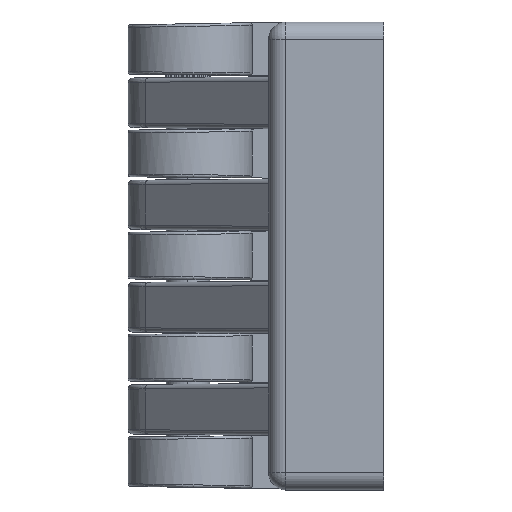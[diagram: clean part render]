
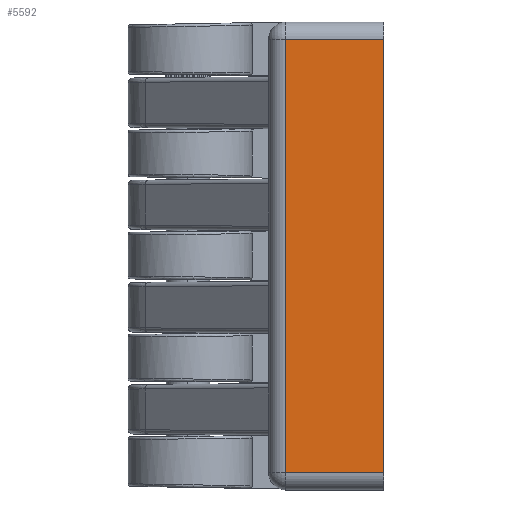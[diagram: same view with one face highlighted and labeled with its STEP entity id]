
A CAD part, left-side view. The second image highlights one B-rep face of the part: STEP entity #5592.
In plain terms, the highlighted planar face has unit normal (-1, 0, 0).
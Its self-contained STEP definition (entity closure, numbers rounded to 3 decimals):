
#245 = CARTESIAN_POINT ( 'NONE',  ( -22.25, -11.3, 24.975 ) ) ;
#463 = VERTEX_POINT ( 'NONE', #996 ) ;
#937 = CARTESIAN_POINT ( 'NONE',  ( -22.25, -22.6, -24.975 ) ) ;
#996 = CARTESIAN_POINT ( 'NONE',  ( -22.25, -11.3, 24.975 ) ) ;
#1134 = DIRECTION ( 'NONE',  ( 0., 0., -1. ) ) ;
#1444 = VECTOR ( 'NONE', #1134, 1000. ) ;
#1939 = VERTEX_POINT ( 'NONE', #11486 ) ;
#2850 = VECTOR ( 'NONE', #10533, 1000. ) ;
#3102 = DIRECTION ( 'NONE',  ( 0., 0., -1. ) ) ;
#3810 = VERTEX_POINT ( 'NONE', #12408 ) ;
#3829 = DIRECTION ( 'NONE',  ( 0., -1., 0. ) ) ;
#3848 = CARTESIAN_POINT ( 'NONE',  ( -22.25, -22.6, 26.975 ) ) ;
#5194 = VERTEX_POINT ( 'NONE', #13319 ) ;
#5592 = ADVANCED_FACE ( 'NONE', ( #14114 ), #10954, .F. ) ;
#6759 = EDGE_CURVE ( 'NONE', #5194, #463, #17525, .T. ) ;
#7130 = ORIENTED_EDGE ( 'NONE', *, *, #12102, .T. ) ;
#10533 = DIRECTION ( 'NONE',  ( 0., 1., 0. ) ) ;
#10954 = PLANE ( 'NONE',  #17490 ) ;
#11112 = EDGE_LOOP ( 'NONE', ( #11310, #7130, #16391, #16906 ) ) ;
#11310 = ORIENTED_EDGE ( 'NONE', *, *, #14640, .T. ) ;
#11486 = CARTESIAN_POINT ( 'NONE',  ( -22.25, -22.6, -24.975 ) ) ;
#11851 = EDGE_CURVE ( 'NONE', #5194, #1939, #17102, .T. ) ;
#11913 = VECTOR ( 'NONE', #3829, 1000. ) ;
#12102 = EDGE_CURVE ( 'NONE', #3810, #1939, #12510, .T. ) ;
#12263 = LINE ( 'NONE', #18032, #1444 ) ;
#12408 = CARTESIAN_POINT ( 'NONE',  ( -22.25, -11.3, -24.975 ) ) ;
#12510 = LINE ( 'NONE', #937, #11913 ) ;
#12531 = DIRECTION ( 'NONE',  ( 0., 0., -1. ) ) ;
#12794 = VECTOR ( 'NONE', #3102, 1000. ) ;
#13319 = CARTESIAN_POINT ( 'NONE',  ( -22.25, -22.6, 24.975 ) ) ;
#13835 = DIRECTION ( 'NONE',  ( 1., 0., 0. ) ) ;
#14114 = FACE_OUTER_BOUND ( 'NONE', #11112, .T. ) ;
#14640 = EDGE_CURVE ( 'NONE', #463, #3810, #12263, .T. ) ;
#16391 = ORIENTED_EDGE ( 'NONE', *, *, #11851, .F. ) ;
#16906 = ORIENTED_EDGE ( 'NONE', *, *, #6759, .T. ) ;
#17102 = LINE ( 'NONE', #17388, #12794 ) ;
#17388 = CARTESIAN_POINT ( 'NONE',  ( -22.25, -22.6, 26.975 ) ) ;
#17490 = AXIS2_PLACEMENT_3D ( 'NONE', #3848, #13835, #12531 ) ;
#17525 = LINE ( 'NONE', #245, #2850 ) ;
#18032 = CARTESIAN_POINT ( 'NONE',  ( -22.25, -11.3, 26.975 ) ) ;
